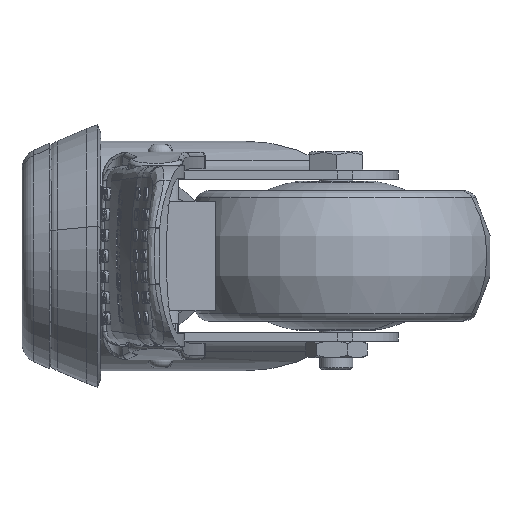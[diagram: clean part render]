
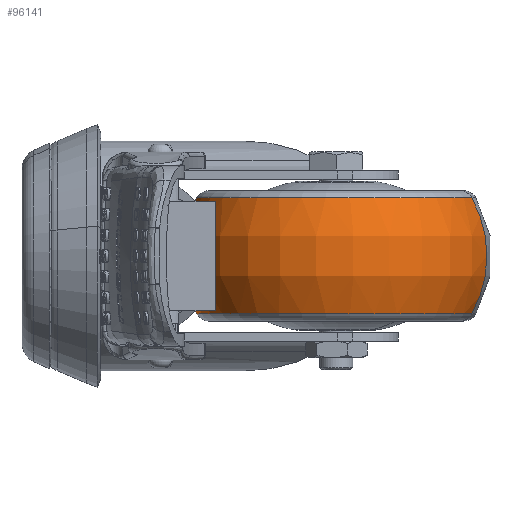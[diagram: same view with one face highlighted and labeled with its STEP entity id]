
A CAD part, left-side view. The second image highlights one B-rep face of the part: STEP entity #96141.
In plain terms, the highlighted toroidal (fillet/blend) face has major radius 9.5 mm and minor radius 28 mm.
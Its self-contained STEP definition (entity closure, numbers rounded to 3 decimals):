
#4279 = EDGE_CURVE ( 'NONE', #66727, #66728, #62547, .T. ) ;
#4285 = EDGE_CURVE ( 'NONE', #66728, #66729, #62545, .T. ) ;
#4289 = EDGE_CURVE ( 'NONE', #66730, #66729, #62541, .T. ) ;
#4292 = EDGE_CURVE ( 'NONE', #66727, #66730, #62543, .T. ) ;
#17357 = ORIENTED_EDGE ( 'NONE', *, *, #4279, .T. ) ;
#17358 = ORIENTED_EDGE ( 'NONE', *, *, #4285, .T. ) ;
#17359 = ORIENTED_EDGE ( 'NONE', *, *, #4289, .F. ) ;
#17360 = ORIENTED_EDGE ( 'NONE', *, *, #4292, .F. ) ;
#18974 = CARTESIAN_POINT ( 'NONE',  ( -34.261, -18.518, 14.941 ) ) ;
#18975 = DIRECTION ( 'NONE',  ( 0., 0., -1. ) ) ;
#18976 = DIRECTION ( 'NONE',  ( -0.248, -0.969, 0. ) ) ;
#18980 = CARTESIAN_POINT ( 'NONE',  ( -31.904, -9.315, 0.941 ) ) ;
#18981 = DIRECTION ( 'NONE',  ( -0.969, 0.248, 0. ) ) ;
#18982 = DIRECTION ( 'NONE',  ( -0.248, -0.969, 0. ) ) ;
#18983 = CARTESIAN_POINT ( 'NONE',  ( -34.261, -18.518, -13.059 ) ) ;
#18984 = DIRECTION ( 'NONE',  ( 0., 0., -1. ) ) ;
#18985 = DIRECTION ( 'NONE',  ( -0.248, -0.969, 0. ) ) ;
#18987 = CARTESIAN_POINT ( 'NONE',  ( -36.618, -27.721, 0.941 ) ) ;
#18988 = DIRECTION ( 'NONE',  ( 0.969, -0.248, 0. ) ) ;
#18989 = DIRECTION ( 'NONE',  ( 0.248, 0.969, 0. ) ) ;
#29074 = CARTESIAN_POINT ( 'NONE',  ( -42.634, -51.211, 14.941 ) ) ;
#29076 = CARTESIAN_POINT ( 'NONE',  ( -25.888, 14.176, 14.941 ) ) ;
#29078 = CARTESIAN_POINT ( 'NONE',  ( -25.888, 14.176, -13.059 ) ) ;
#29080 = CARTESIAN_POINT ( 'NONE',  ( -42.634, -51.211, -13.059 ) ) ;
#34521 = DIRECTION ( 'NONE',  ( 0., 0., -1. ) ) ;
#34522 = FACE_OUTER_BOUND ( 'NONE', #57204, .T. ) ;
#34524 = CARTESIAN_POINT ( 'NONE',  ( -34.261, -18.518, 0.941 ) ) ;
#34527 = DIRECTION ( 'NONE',  ( -0.248, -0.969, 0. ) ) ;
#45619 = TOROIDAL_SURFACE ( 'NONE', #45632, 9.5, 28. ) ;
#45632 = AXIS2_PLACEMENT_3D ( 'NONE', #34524, #34521, #34527 ) ;
#57204 = EDGE_LOOP ( 'NONE', ( #17357, #17358, #17359, #17360 ) ) ;
#62536 = AXIS2_PLACEMENT_3D ( 'NONE', #18987, #18988, #18989 ) ;
#62538 = AXIS2_PLACEMENT_3D ( 'NONE', #18983, #18984, #18985 ) ;
#62540 = AXIS2_PLACEMENT_3D ( 'NONE', #18980, #18981, #18982 ) ;
#62541 = CIRCLE ( 'NONE', #62538, 33.749 ) ;
#62543 = CIRCLE ( 'NONE', #62536, 28. ) ;
#62544 = AXIS2_PLACEMENT_3D ( 'NONE', #18974, #18975, #18976 ) ;
#62545 = CIRCLE ( 'NONE', #62540, 28. ) ;
#62547 = CIRCLE ( 'NONE', #62544, 33.749 ) ;
#66727 = VERTEX_POINT ( 'NONE', #29074 ) ;
#66728 = VERTEX_POINT ( 'NONE', #29076 ) ;
#66729 = VERTEX_POINT ( 'NONE', #29078 ) ;
#66730 = VERTEX_POINT ( 'NONE', #29080 ) ;
#96141 = ADVANCED_FACE ( 'NONE', ( #34522 ), #45619, .T. ) ;
